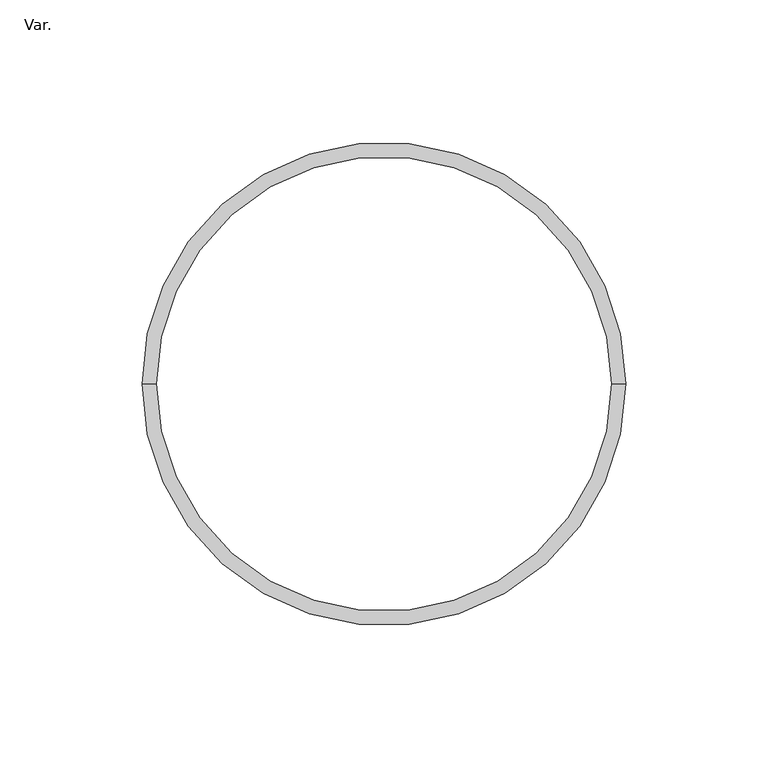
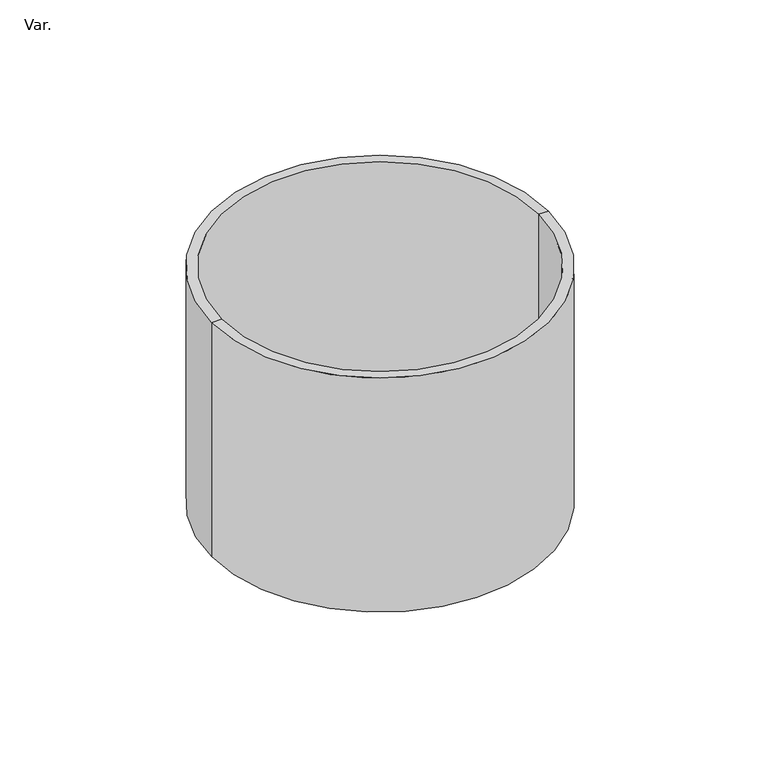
"""IFC4 building model written with IfcOpenShell, lengths in millimetres: pipe fitting geometry, AmancoWavin_UnionesDeTuberia_Aquacell AG_Conexión DN160 : Var.."""

import ifcopenshell
import ifcopenshell.guid

model = None  # the IFC model being written
_history = None  # IfcOwnerHistory: only IFC2X3 demands one
_inside = {}  # id of a spatial element -> (the spatial element, [elements in it])
_under = {}  # id of a project, library or spatial element -> (it, [spatial elements below it])
_declared = {}  # id of a project -> (the project, [libraries it declares])
_typed = {}  # id of a type object -> (the type object, [elements of that type])
_made_of = {}  # id of a material, layer set ... -> (it, [elements and type objects made of it])


def new_model(schema):
    """Start an empty IFC model of exactly this schema.

    Asked for "IFC4X3", IfcOpenShell would pick the latest addendum, in which some entities
    have other attributes; the version numbers below select the first issue.
    IFC2X3 requires an IfcOwnerHistory on every rooted entity: one is made here for all.
    """
    global model, _history
    if schema == "IFC4X3":
        model = ifcopenshell.file(schema_version=(4, 3, 0, 0))
    else:
        model = ifcopenshell.file(schema=schema)
    _inside.clear()
    _under.clear()
    _declared.clear()
    _typed.clear()
    _made_of.clear()
    _history = None
    if model.schema == "IFC2X3":
        org = make("IfcOrganization", Name="unknown")
        user = make(
            "IfcPersonAndOrganization",
            ThePerson=make("IfcPerson", FamilyName="unknown"),
            TheOrganization=org,
        )
        app = make(
            "IfcApplication",
            ApplicationDeveloper=org,
            Version="unknown",
            ApplicationFullName="unknown",
            ApplicationIdentifier="unknown",
        )
        _history = make(
            "IfcOwnerHistory",
            OwningUser=user,
            OwningApplication=app,
            ChangeAction="ADDED",
            CreationDate=0,
        )
    return model


def make(cls, **values):
    """One entity of the class cls with the attributes given. An attribute that is None is left unset."""
    return model.create_entity(
        cls, **{name: value for name, value in values.items() if value is not None}
    )


def rooted(cls, **values):
    """An entity with a GlobalId (a new one), such as an element, a storey or a relation."""
    return make(cls, GlobalId=ifcopenshell.guid.new(), OwnerHistory=_history, **values)


def si_unit(unit_type, name, prefix=None):
    """IfcSIUnit, for example si_unit("LENGTHUNIT", "METRE", prefix="MILLI")."""
    return make("IfcSIUnit", UnitType=unit_type, Prefix=prefix, Name=name)


def assignment(units):
    """IfcUnitAssignment: the units of a project."""
    return None if units is None else make("IfcUnitAssignment", Units=units)


def point(xyz):
    """IfcCartesianPoint."""
    return None if xyz is None else make("IfcCartesianPoint", Coordinates=xyz)


def direction(xyz):
    """IfcDirection."""
    return None if xyz is None else make("IfcDirection", DirectionRatios=xyz)


def frame(location, z_axis=None, x_axis=None):
    """IfcAxis2Placement3D, a coordinate frame: its origin and axes. An axis left out is left unset."""
    return make(
        "IfcAxis2Placement3D",
        Location=point(location),
        Axis=direction(z_axis),
        RefDirection=direction(x_axis),
    )


def origin():
    """The frame at (0, 0, 0) with its axes left unset."""
    return frame((0.0, 0.0, 0.0))


def place(relative_to, where):
    """IfcLocalPlacement: puts the frame where relative to a parent placement (None: the world)."""
    return make(
        "IfcLocalPlacement", PlacementRelTo=relative_to, RelativePlacement=where
    )


def context(
    kind, dimensions, precision=None, world=None, true_north=None, identifier=None
):
    """IfcGeometricRepresentationContext, for example the 3D "Model" context."""
    return make(
        "IfcGeometricRepresentationContext",
        ContextIdentifier=identifier,
        ContextType=kind,
        CoordinateSpaceDimension=dimensions,
        Precision=precision,
        WorldCoordinateSystem=world,
        TrueNorth=true_north,
    )


def project(units=None, contexts=None):
    """IfcProject with its units and contexts."""
    return rooted(
        "IfcProject",
        Name="project",
        RepresentationContexts=contexts,
        UnitsInContext=assignment(units),
    )


def spatial(cls, under=None, at=None, **own):
    """A site, building, storey or space (cls), placed at a placement, below another one or the project."""
    s = rooted(cls, ObjectPlacement=at, **own)
    if under is not None:
        _under.setdefault(under.id(), (under, []))[1].append(s)
    return s


def polyline(points):
    """IfcPolyline through the points."""
    return make("IfcPolyline", Points=[point(p) for p in points])


def circle_curve(where, radius):
    """IfcCircle in the frame where."""
    return make("IfcCircle", Position=where, Radius=radius)


def shape(context_of_items, identifier, shape_type, items):
    """IfcShapeRepresentation: the items that make up one representation, for example the "Body"."""
    return make(
        "IfcShapeRepresentation",
        ContextOfItems=context_of_items,
        RepresentationIdentifier=identifier,
        RepresentationType=shape_type,
        Items=items,
    )


def source(mapping_origin, context_of_items, identifier, shape_type, items):
    """IfcRepresentationMap: a shape defined once, which mapped items show again and again."""
    return make(
        "IfcRepresentationMap",
        MappingOrigin=mapping_origin,
        MappedRepresentation=shape(context_of_items, identifier, shape_type, items),
    )


def transform(
    local_origin,
    x_axis=None,
    y_axis=None,
    z_axis=None,
    scale=None,
    scale2=None,
    scale3=None,
    uniform=True,
):
    """IfcCartesianTransformationOperator3D, or its non-uniform kind. x_axis, y_axis, z_axis: its Axis1, 2, 3."""
    if uniform:
        return make(
            "IfcCartesianTransformationOperator3D",
            Axis1=direction(x_axis),
            Axis2=direction(y_axis),
            LocalOrigin=point(local_origin),
            Scale=scale,
            Axis3=direction(z_axis),
        )
    return make(
        "IfcCartesianTransformationOperator3DnonUniform",
        Axis1=direction(x_axis),
        Axis2=direction(y_axis),
        LocalOrigin=point(local_origin),
        Scale=scale,
        Axis3=direction(z_axis),
        Scale2=scale2,
        Scale3=scale3,
    )


def mapped(mapping_source, mapping_target):
    """IfcMappedItem: shows the shape of a source again, moved by a transform."""
    return make(
        "IfcMappedItem", MappingSource=mapping_source, MappingTarget=mapping_target
    )


def made_of(thing, what):
    """Note that an element or type object is made of a material, layer set ...; save() writes the relation."""
    if what is not None:
        _made_of.setdefault(what.id(), (what, []))[1].append(thing)
    return thing


def element(
    cls,
    number,
    at=None,
    inside=None,
    cuts=None,
    type_object=None,
    material=None,
    context=None,
    identifier="Body",
    shape_type=None,
    held_by="IfcProductDefinitionShape",
    body=None,
    shapes=None,
    **own,
):
    """One element of the class cls, such as IfcWall. Its Tag is "e" and its number.

    at: its placement. inside: the storey or other place that contains it. cuts: it is an
    opening in that element (IfcRelVoidsElement). A single representation is given by context,
    identifier, shape_type and body (its items); several are given by shapes. held_by: the class
    of the entity that holds the representations. save() writes the other relations.
    """
    e = rooted(cls, Tag="e%d" % number, ObjectPlacement=at, **own)
    if body is not None:
        shapes = [shape(context, identifier, shape_type, body)]
    if shapes is not None:
        e.Representation = make(held_by, Representations=shapes)
    if inside is not None:
        _inside.setdefault(inside.id(), (inside, []))[1].append(e)
    if cuts is not None:
        rooted(
            "IfcRelVoidsElement", RelatingBuildingElement=cuts, RelatedOpeningElement=e
        )
    if type_object is not None:
        _typed.setdefault(type_object.id(), (type_object, []))[1].append(e)
    return made_of(e, material)


def aggregate(whole, parts):
    """IfcRelAggregates: a whole, such as a stair, and the parts it consists of."""
    return rooted("IfcRelAggregates", RelatingObject=whole, RelatedObjects=parts)


def save(model, path):
    """Write the relations noted so far, then the file.

    IfcRelAggregates (storeys below a building ...), IfcRelContainedInSpatialStructure (elements
    in a storey), IfcRelDefinesByType, IfcRelAssociatesMaterial and IfcRelDeclares: one each for
    every whole, place, type object, material and project.
    """
    for whole, parts in _under.values():
        aggregate(whole, parts)
    for where, things in _inside.values():
        rooted(
            "IfcRelContainedInSpatialStructure",
            RelatedElements=things,
            RelatingStructure=where,
        )
    for kind, things in _typed.values():
        rooted("IfcRelDefinesByType", RelatedObjects=things, RelatingType=kind)
    for what, things in _made_of.values():
        rooted("IfcRelAssociatesMaterial", RelatedObjects=things, RelatingMaterial=what)
    for by, libraries in _declared.values():
        rooted("IfcRelDeclares", RelatingContext=by, RelatedDefinitions=libraries)
    model.write(path)


def plane_surface(at):
    """IfcPlane: the flat surface through the origin of the frame at, square to its z axis."""
    return make("IfcPlane", Position=at)


def cylinder_surface(at, radius):
    """IfcCylindricalSurface: all points at the distance radius from the z axis of the frame at."""
    return make("IfcCylindricalSurface", Position=at, Radius=radius)


def revolved_surface(curve, axis_point, axis_direction):
    """IfcSurfaceOfRevolution: the curve turned about the line through axis_point along axis_direction."""
    return make(
        "IfcSurfaceOfRevolution",
        SweptCurve=make("IfcArbitraryOpenProfileDef", ProfileType="CURVE", Curve=curve),
        AxisPosition=make("IfcAxis1Placement", Location=point(axis_point), Axis=direction(axis_direction)),
    )


def advanced_brep(points, edges, surfaces, faces):
    """IfcAdvancedBrep: a solid bounded by faces that lie on surfaces and meet in shared edges.

    An edge is (start, end): straight between two places in points (the first is 0);
    or (start, end, curve); or (start, end, curve, False) where it runs against its curve.
    A face is (place in surfaces, loops), or (place, loops, False) where it looks against
    its surface's normal. A loop lists edges by number (the first is 1), with a minus sign
    where the edge is run from its end to its start. The first loop is the outer one.
    """
    corners = [point(p) for p in points]
    vertices = [make("IfcVertexPoint", VertexGeometry=c) for c in corners]
    made = []
    for start, end, *more in edges:
        made.append(
            make(
                "IfcEdgeCurve",
                EdgeStart=vertices[start],
                EdgeEnd=vertices[end],
                EdgeGeometry=more[0] if more else make("IfcPolyline", Points=[corners[start], corners[end]]),
                SameSense=more[1] if len(more) > 1 else True,
            )
        )
    hull = []
    for where, loops, *sense in faces:
        bounds = []
        for j, loop in enumerate(loops):
            ring = [make("IfcOrientedEdge", EdgeElement=made[abs(k) - 1], Orientation=k > 0) for k in loop]
            bounds.append(
                make(
                    "IfcFaceOuterBound" if j == 0 else "IfcFaceBound",
                    Bound=make("IfcEdgeLoop", EdgeList=ring),
                    Orientation=True,
                )
            )
        hull.append(make("IfcAdvancedFace", Bounds=bounds, FaceSurface=surfaces[where], SameSense=sense[0] if sense else True))
    return make("IfcAdvancedBrep", Outer=make("IfcClosedShell", CfsFaces=hull))


def var_3434ab98(model_context):
    return source(origin(), model_context, "Body", "AdvancedBrep", [
        advanced_brep(
        [(80.0, 0.0, 0.0), (-80.0, 0.0, 0.0), (-80.0, 0.0, -125.0), (80.0, 0.0, -125.0), (85.0, 0.0, 0.0), (-85.0, 0.0, 0.0), (85.0, 0.0, -125.0), (-85.0, 0.0, -125.0)],
        [
            (0, 1, circle_curve(frame((0.0, 0.0, 0.0), z_axis=(0.0, 0.0, 1.0), x_axis=(-1.0, 0.0, 0.0)), 80.0)),
            (1, 2),
            (2, 3, circle_curve(frame((0.0, 0.0, -125.0), z_axis=(0.0, 0.0, -1.0), x_axis=(-1.0, 0.0, 0.0)), 80.0)),
            (3, 0),
            (1, 0, circle_curve(frame((0.0, 0.0, 0.0), z_axis=(0.0, 0.0, 1.0), x_axis=(-1.0, 0.0, 0.0)), 80.0)),
            (3, 2, circle_curve(frame((0.0, 0.0, -125.0), z_axis=(0.0, 0.0, -1.0), x_axis=(-1.0, 0.0, 0.0)), 80.0)),
            (4, 5, circle_curve(frame((0.0, 0.0, 0.0), z_axis=(0.0, 0.0, 1.0), x_axis=(-1.0, 0.0, 0.0)), 85.0)),
            (5, 1),
            (0, 4),
            (5, 4, circle_curve(frame((0.0, 0.0, 0.0), z_axis=(0.0, 0.0, 1.0), x_axis=(-1.0, 0.0, 0.0)), 85.0)),
            (6, 7, circle_curve(frame((0.0, 0.0, -125.0), z_axis=(0.0, 0.0, 1.0), x_axis=(-1.0, 0.0, 0.0)), 85.0)),
            (7, 5),
            (4, 6),
            (7, 6, circle_curve(frame((0.0, 0.0, -125.0), z_axis=(0.0, 0.0, 1.0), x_axis=(-1.0, 0.0, 0.0)), 85.0)),
            (2, 7),
            (6, 3),
        ],
        [
            revolved_surface(polyline([(-80.0, 0.0, -125.0), (-80.0, 0.0, 0.0)]), (0.0, 0.0, 0.0), (0.0, 0.0, -1.0)),
            plane_surface(frame((0.0, 0.0, 0.0), z_axis=(0.0, 0.0, 1.0), x_axis=(-1.0, 0.0, 0.0))),
            cylinder_surface(frame((0.0, 0.0, 0.0), z_axis=(0.0, 0.0, -1.0), x_axis=(-1.0, 0.0, 0.0)), 85.0),
            plane_surface(frame((0.0, 0.0, -125.0), z_axis=(0.0, 0.0, -1.0), x_axis=(-1.0, 0.0, 0.0))),
        ],
        [
            (0, [[1, 2, 3, 4]]),
            (0, [[5, -4, 6, -2]]),
            (1, [[7, 8, -1, 9]]),
            (1, [[10, -9, -5, -8]]),
            (2, [[11, 12, -7, 13]]),
            (2, [[14, -13, -10, -12]]),
            (3, [[-3, 15, -11, 16]]),
            (3, [[-6, -16, -14, -15]]),
        ],
    ),
    ])


if __name__ == "__main__":
    model = new_model("IFC4")
    model_context = context("Model", 3, world=origin())
    ifc_project = project(units=[si_unit("LENGTHUNIT", "METRE", prefix="MILLI")], contexts=[model_context])
    site = spatial("IfcSite", under=ifc_project)
    building = spatial("IfcBuilding", under=site)
    placement = place(None, origin())
    var_shape = var_3434ab98(model_context)
    element("IfcPipeFitting", 1, ObjectType="AmancoWavin_UnionesDeTuberia_Aquacell AG_Conexión DN160 : Var.", at=placement, inside=building, context=model_context, shape_type="MappedRepresentation", body=[
        mapped(var_shape, transform((0.0, 0.0, 0.0), x_axis=(1.0, 0.0, 0.0), y_axis=(0.0, 1.0, 0.0), z_axis=(0.0, 0.0, 1.0))),
    ])
    save(model, "model.ifc")
